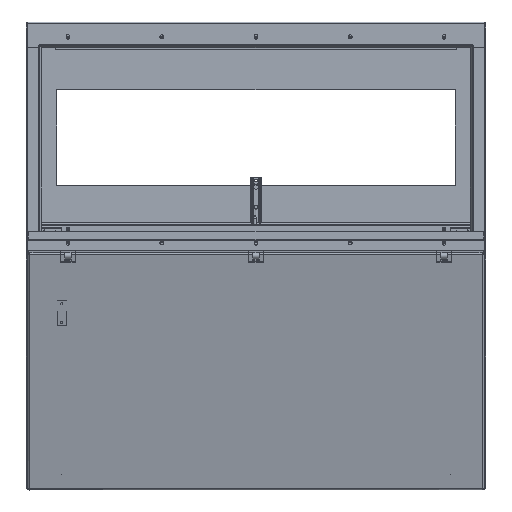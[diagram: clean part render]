
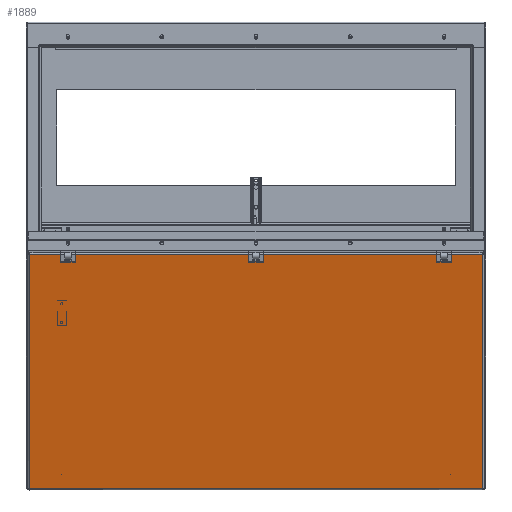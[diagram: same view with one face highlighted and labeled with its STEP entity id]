
A CAD part, top view. The second image highlights one B-rep face of the part: STEP entity #1889.
In plain terms, the highlighted planar face has unit normal (0, -0.208, 0.978) as drawn and (0, -1, 0) by its records, which use the part's own axes.
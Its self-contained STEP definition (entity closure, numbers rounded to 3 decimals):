
#1889 = ADVANCED_FACE( '', ( #2902 ), #2903, .T. );
#2902 = FACE_OUTER_BOUND( '', #4763, .T. );
#2903 = PLANE( '', #4764 );
#4763 = EDGE_LOOP( '', ( #8232, #8233, #8234, #8235, #8236, #8237, #8238, #8239, #8240, #8241, #8242, #8243, #8244, #8245, #8246, #8247 ) );
#4764 = AXIS2_PLACEMENT_3D( '', #8248, #8249, #8250 );
#8232 = ORIENTED_EDGE( '', *, *, #12519, .T. );
#8233 = ORIENTED_EDGE( '', *, *, #12520, .T. );
#8234 = ORIENTED_EDGE( '', *, *, #12521, .T. );
#8235 = ORIENTED_EDGE( '', *, *, #12522, .F. );
#8236 = ORIENTED_EDGE( '', *, *, #12523, .T. );
#8237 = ORIENTED_EDGE( '', *, *, #12524, .T. );
#8238 = ORIENTED_EDGE( '', *, *, #12525, .T. );
#8239 = ORIENTED_EDGE( '', *, *, #12526, .T. );
#8240 = ORIENTED_EDGE( '', *, *, #12527, .T. );
#8241 = ORIENTED_EDGE( '', *, *, #12528, .T. );
#8242 = ORIENTED_EDGE( '', *, *, #12529, .T. );
#8243 = ORIENTED_EDGE( '', *, *, #12530, .T. );
#8244 = ORIENTED_EDGE( '', *, *, #12531, .T. );
#8245 = ORIENTED_EDGE( '', *, *, #12532, .T. );
#8246 = ORIENTED_EDGE( '', *, *, #12533, .T. );
#8247 = ORIENTED_EDGE( '', *, *, #12534, .T. );
#8248 = CARTESIAN_POINT( '', ( -454.025, 0., -241.3 ) );
#8249 = DIRECTION( '', ( 0., -1., 0. ) );
#8250 = DIRECTION( '', ( 0., 0., -1. ) );
#12519 = EDGE_CURVE( '', #14553, #14554, #14555, .T. );
#12520 = EDGE_CURVE( '', #14554, #14556, #14557, .T. );
#12521 = EDGE_CURVE( '', #14556, #14558, #14559, .T. );
#12522 = EDGE_CURVE( '', #14560, #14558, #14561, .T. );
#12523 = EDGE_CURVE( '', #14560, #14562, #14563, .T. );
#12524 = EDGE_CURVE( '', #14562, #14564, #14565, .T. );
#12525 = EDGE_CURVE( '', #14564, #14566, #14567, .T. );
#12526 = EDGE_CURVE( '', #14566, #14568, #14569, .T. );
#12527 = EDGE_CURVE( '', #14568, #14570, #14571, .T. );
#12528 = EDGE_CURVE( '', #14570, #14572, #14573, .T. );
#12529 = EDGE_CURVE( '', #14572, #14574, #14575, .T. );
#12530 = EDGE_CURVE( '', #14574, #14576, #14577, .T. );
#12531 = EDGE_CURVE( '', #14576, #14578, #14579, .T. );
#12532 = EDGE_CURVE( '', #14578, #14580, #14581, .T. );
#12533 = EDGE_CURVE( '', #14580, #14582, #14583, .T. );
#12534 = EDGE_CURVE( '', #14582, #14553, #14584, .T. );
#14553 = VERTEX_POINT( '', #17707 );
#14554 = VERTEX_POINT( '', #17708 );
#14555 = LINE( '', #17709, #17710 );
#14556 = VERTEX_POINT( '', #17711 );
#14557 = LINE( '', #17712, #17713 );
#14558 = VERTEX_POINT( '', #17714 );
#14559 = LINE( '', #17715, #17716 );
#14560 = VERTEX_POINT( '', #17717 );
#14561 = LINE( '', #17718, #17719 );
#14562 = VERTEX_POINT( '', #17720 );
#14563 = LINE( '', #17721, #17722 );
#14564 = VERTEX_POINT( '', #17723 );
#14565 = LINE( '', #17724, #17725 );
#14566 = VERTEX_POINT( '', #17726 );
#14567 = LINE( '', #17727, #17728 );
#14568 = VERTEX_POINT( '', #17729 );
#14569 = LINE( '', #17730, #17731 );
#14570 = VERTEX_POINT( '', #17732 );
#14571 = LINE( '', #17733, #17734 );
#14572 = VERTEX_POINT( '', #17735 );
#14573 = LINE( '', #17736, #17737 );
#14574 = VERTEX_POINT( '', #17738 );
#14575 = LINE( '', #17739, #17740 );
#14576 = VERTEX_POINT( '', #17741 );
#14577 = LINE( '', #17742, #17743 );
#14578 = VERTEX_POINT( '', #17744 );
#14579 = LINE( '', #17745, #17746 );
#14580 = VERTEX_POINT( '', #17747 );
#14581 = LINE( '', #17748, #17749 );
#14582 = VERTEX_POINT( '', #17750 );
#14583 = LINE( '', #17751, #17752 );
#14584 = LINE( '', #17753, #17754 );
#17707 = CARTESIAN_POINT( '', ( 384.683, 0., -227.013 ) );
#17708 = CARTESIAN_POINT( '', ( 384.683, 0., -238.557 ) );
#17709 = CARTESIAN_POINT( '', ( 384.683, 0., -241.3 ) );
#17710 = VECTOR( '', #21790, 1000. );
#17711 = CARTESIAN_POINT( '', ( 451.282, 0., -238.557 ) );
#17712 = CARTESIAN_POINT( '', ( -451.282, 0., -238.557 ) );
#17713 = VECTOR( '', #21791, 1000. );
#17714 = CARTESIAN_POINT( '', ( 451.282, 0., 238.557 ) );
#17715 = CARTESIAN_POINT( '', ( 451.282, 0., -238.557 ) );
#17716 = VECTOR( '', #21792, 1000. );
#17717 = CARTESIAN_POINT( '', ( -451.282, 0., 238.557 ) );
#17718 = CARTESIAN_POINT( '', ( -451.282, 0., 238.557 ) );
#17719 = VECTOR( '', #21793, 1000. );
#17720 = CARTESIAN_POINT( '', ( -451.282, 0., -238.557 ) );
#17721 = CARTESIAN_POINT( '', ( -451.282, 0., 238.557 ) );
#17722 = VECTOR( '', #21794, 1000. );
#17723 = CARTESIAN_POINT( '', ( -384.683, 0., -238.557 ) );
#17724 = CARTESIAN_POINT( '', ( -451.282, 0., -238.557 ) );
#17725 = VECTOR( '', #21795, 1000. );
#17726 = CARTESIAN_POINT( '', ( -384.683, 0., -227.013 ) );
#17727 = CARTESIAN_POINT( '', ( -384.683, 0., -241.3 ) );
#17728 = VECTOR( '', #21796, 1000. );
#17729 = CARTESIAN_POINT( '', ( -364.617, 0., -227.013 ) );
#17730 = CARTESIAN_POINT( '', ( -454.025, 0., -227.013 ) );
#17731 = VECTOR( '', #21797, 1000. );
#17732 = CARTESIAN_POINT( '', ( -364.617, 0., -238.557 ) );
#17733 = CARTESIAN_POINT( '', ( -364.617, 0., -241.3 ) );
#17734 = VECTOR( '', #21798, 1000. );
#17735 = CARTESIAN_POINT( '', ( -10.033, 0., -238.557 ) );
#17736 = CARTESIAN_POINT( '', ( -451.282, 0., -238.557 ) );
#17737 = VECTOR( '', #21799, 1000. );
#17738 = CARTESIAN_POINT( '', ( -10.033, 0., -227.013 ) );
#17739 = CARTESIAN_POINT( '', ( -10.033, 0., -241.3 ) );
#17740 = VECTOR( '', #21800, 1000. );
#17741 = CARTESIAN_POINT( '', ( 10.033, 0., -227.013 ) );
#17742 = CARTESIAN_POINT( '', ( -454.025, 0., -227.013 ) );
#17743 = VECTOR( '', #21801, 1000. );
#17744 = CARTESIAN_POINT( '', ( 10.033, 0., -238.557 ) );
#17745 = CARTESIAN_POINT( '', ( 10.033, 0., -241.3 ) );
#17746 = VECTOR( '', #21802, 1000. );
#17747 = CARTESIAN_POINT( '', ( 364.617, 0., -238.557 ) );
#17748 = CARTESIAN_POINT( '', ( -451.282, 0., -238.557 ) );
#17749 = VECTOR( '', #21803, 1000. );
#17750 = CARTESIAN_POINT( '', ( 364.617, 0., -227.013 ) );
#17751 = CARTESIAN_POINT( '', ( 364.617, 0., -241.3 ) );
#17752 = VECTOR( '', #21804, 1000. );
#17753 = CARTESIAN_POINT( '', ( -454.025, 0., -227.013 ) );
#17754 = VECTOR( '', #21805, 1000. );
#21790 = DIRECTION( '', ( 0., 0., -1. ) );
#21791 = DIRECTION( '', ( 1., 0., 0. ) );
#21792 = DIRECTION( '', ( 0., 0., 1. ) );
#21793 = DIRECTION( '', ( 1., 0., 0. ) );
#21794 = DIRECTION( '', ( 0., 0., -1. ) );
#21795 = DIRECTION( '', ( 1., 0., 0. ) );
#21796 = DIRECTION( '', ( 0., 0., 1. ) );
#21797 = DIRECTION( '', ( 1., 0., 0. ) );
#21798 = DIRECTION( '', ( 0., 0., -1. ) );
#21799 = DIRECTION( '', ( 1., 0., 0. ) );
#21800 = DIRECTION( '', ( 0., 0., 1. ) );
#21801 = DIRECTION( '', ( 1., 0., 0. ) );
#21802 = DIRECTION( '', ( 0., 0., -1. ) );
#21803 = DIRECTION( '', ( 1., 0., 0. ) );
#21804 = DIRECTION( '', ( 0., 0., 1. ) );
#21805 = DIRECTION( '', ( 1., 0., 0. ) );
